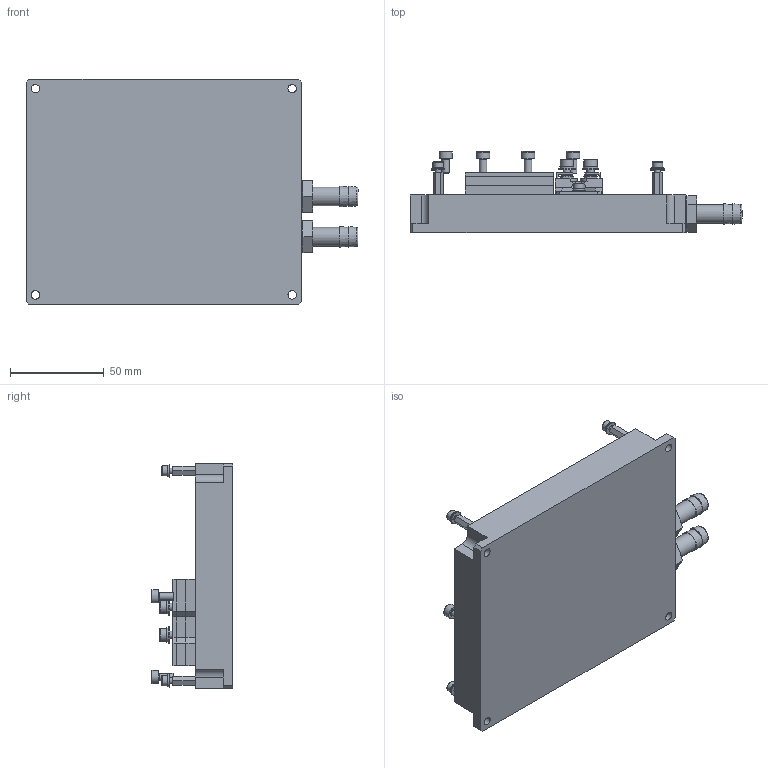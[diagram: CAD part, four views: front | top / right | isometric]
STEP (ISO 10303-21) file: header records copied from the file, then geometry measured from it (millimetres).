
FILE_DESCRIPTION (( 'STEP AP214' ), '1' );
FILE_NAME ('482.11.00.000-A01_SDC-400.STEP', '2026-02-09T16:29:28', ( '' ), ( '' ), 'SwSTEP 2.0', 'SolidWorks 2019', '' );
FILE_SCHEMA (( 'AUTOMOTIVE_DESIGN' ));
Length unit declared in the file: millimetre
Products named in the file (17): 482.10.00.011-B01_扻豵鵨; 妈眚 󊅙0 DIN912; ﾘ琺矜 ﾌ4 DIN127; SDC-400 HV; 妈眚 󊅠 DIN912; 3569_B-1_4; 482.10.00.012-A01_砑僔蠂縺; Q1_sdc-400 LV; 482.10.00.010-B01_Êîðïóñ â ñáîðå; 482.11.00.000-A01_SDC-400; 栺鍣罻 PCHSN-12; 妈眚 󉱭6 DIN7991; 482.10.00.001-A01_砱謽闀豂膹馯罻; 482.10.00.013-A01_砑僔蠂縺; Âèíò DIN912 M3x8 screw with spring and washer; ﾘ琺矜 ﾌ4 DIN125; 3607_N-1_4-P-9
Assembly tree (38 placements, depth 3):
  482.11.00.000-A01_SDC-400
    482.10.00.010-B01_Êîðïóñ â ñáîðå
      482.10.00.011-B01_扻豵鵨
      482.10.00.012-A01_砑僔蠂縺
      482.10.00.013-A01_砑僔蠂縺
      3569_B-1_4
      3607_N-1_4-P-9  x2
      妈眚 󉱭6 DIN7991  x2
    栺鍣罻 PCHSN-12  x4
    Âèíò DIN912 M3x8 screw with spring and washer  x6
    ﾘ琺矜 ﾌ4 DIN125  x4
    ﾘ琺矜 ﾌ4 DIN127  x4
    妈眚 󊅙0 DIN912  x4
    妈眚 󊅠 DIN912  x4
    482.10.00.001-A01_砱謽闀豂膹馯罻
    Q1_sdc-400 LV
    SDC-400 HV
Bounding box: 177.1 x 43.49 x 120.2 mm (x, y, z)
Volume: 371568.8 mm3; surface area: 87399.4 mm2
Topology: 48 solids, 48 shells, 895 faces, 2059 edges, 1300 vertices
Faces by surface type: plane 590, cylinder 167, cone 105, torus 28, bspline 5
Full cylindrical faces by diameter (mm): 2.5 x12, 3 x12, 3.2 x6, 3.5 x4, 4 x9, 4.065 x3, 4.2 x1, 4.3 x4, 4.5 x4, 5 x8, 5.5 x6, 5.7 x2, 6.5 x2, 7 x14, 8 x3, 9 x4, 10 x2, 11.5 x3, 13.157 x3, 16.2 x1, 17 x2, 18 x2, 18.5 x3
Entity records: 900819 total; most frequent: CARTESIAN_POINT 307399, ORIENTED_EDGE 82338, DIRECTION 69320, EDGE_CURVE 64483, VERTEX_POINT 53454, LINE 37122, VECTOR 37122, B_SPLINE_CURVE_WITH_KNOTS 21565
